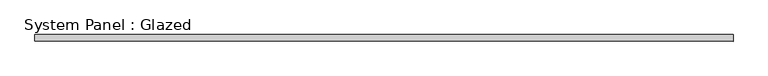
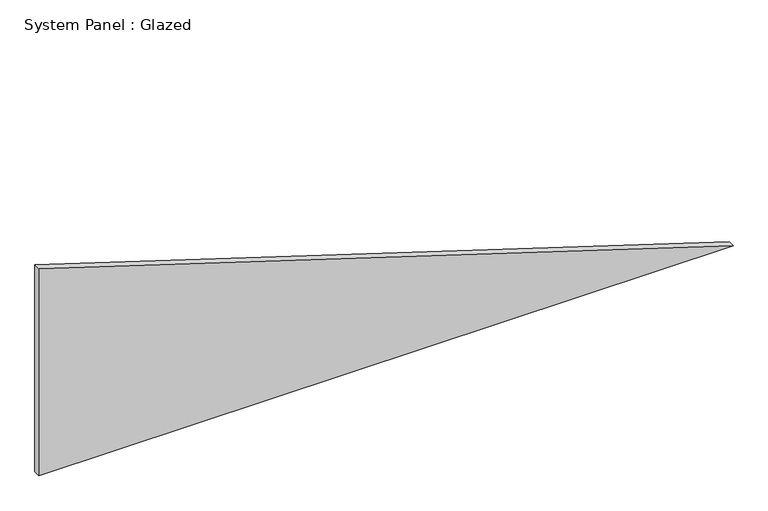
"""IFC4 building model written with IfcOpenShell, lengths in millimetres: plate geometry, System Panel : Glazed."""

import ifcopenshell
import ifcopenshell.guid

model = None  # the IFC model being written
_history = None  # IfcOwnerHistory: only IFC2X3 demands one
_inside = {}  # id of a spatial element -> (the spatial element, [elements in it])
_under = {}  # id of a project, library or spatial element -> (it, [spatial elements below it])
_declared = {}  # id of a project -> (the project, [libraries it declares])
_typed = {}  # id of a type object -> (the type object, [elements of that type])
_made_of = {}  # id of a material, layer set ... -> (it, [elements and type objects made of it])


def new_model(schema):
    """Start an empty IFC model of exactly this schema.

    Asked for "IFC4X3", IfcOpenShell would pick the latest addendum, in which some entities
    have other attributes; the version numbers below select the first issue.
    IFC2X3 requires an IfcOwnerHistory on every rooted entity: one is made here for all.
    """
    global model, _history
    if schema == "IFC4X3":
        model = ifcopenshell.file(schema_version=(4, 3, 0, 0))
    else:
        model = ifcopenshell.file(schema=schema)
    _inside.clear()
    _under.clear()
    _declared.clear()
    _typed.clear()
    _made_of.clear()
    _history = None
    if model.schema == "IFC2X3":
        org = make("IfcOrganization", Name="unknown")
        user = make(
            "IfcPersonAndOrganization",
            ThePerson=make("IfcPerson", FamilyName="unknown"),
            TheOrganization=org,
        )
        app = make(
            "IfcApplication",
            ApplicationDeveloper=org,
            Version="unknown",
            ApplicationFullName="unknown",
            ApplicationIdentifier="unknown",
        )
        _history = make(
            "IfcOwnerHistory",
            OwningUser=user,
            OwningApplication=app,
            ChangeAction="ADDED",
            CreationDate=0,
        )
    return model


def make(cls, **values):
    """One entity of the class cls with the attributes given. An attribute that is None is left unset."""
    return model.create_entity(
        cls, **{name: value for name, value in values.items() if value is not None}
    )


def rooted(cls, **values):
    """An entity with a GlobalId (a new one), such as an element, a storey or a relation."""
    return make(cls, GlobalId=ifcopenshell.guid.new(), OwnerHistory=_history, **values)


def si_unit(unit_type, name, prefix=None):
    """IfcSIUnit, for example si_unit("LENGTHUNIT", "METRE", prefix="MILLI")."""
    return make("IfcSIUnit", UnitType=unit_type, Prefix=prefix, Name=name)


def assignment(units):
    """IfcUnitAssignment: the units of a project."""
    return None if units is None else make("IfcUnitAssignment", Units=units)


def point(xyz):
    """IfcCartesianPoint."""
    return None if xyz is None else make("IfcCartesianPoint", Coordinates=xyz)


def direction(xyz):
    """IfcDirection."""
    return None if xyz is None else make("IfcDirection", DirectionRatios=xyz)


def frame(location, z_axis=None, x_axis=None):
    """IfcAxis2Placement3D, a coordinate frame: its origin and axes. An axis left out is left unset."""
    return make(
        "IfcAxis2Placement3D",
        Location=point(location),
        Axis=direction(z_axis),
        RefDirection=direction(x_axis),
    )


def origin():
    """The frame at (0, 0, 0) with its axes left unset."""
    return frame((0.0, 0.0, 0.0))


def place(relative_to, where):
    """IfcLocalPlacement: puts the frame where relative to a parent placement (None: the world)."""
    return make(
        "IfcLocalPlacement", PlacementRelTo=relative_to, RelativePlacement=where
    )


def context(
    kind, dimensions, precision=None, world=None, true_north=None, identifier=None
):
    """IfcGeometricRepresentationContext, for example the 3D "Model" context."""
    return make(
        "IfcGeometricRepresentationContext",
        ContextIdentifier=identifier,
        ContextType=kind,
        CoordinateSpaceDimension=dimensions,
        Precision=precision,
        WorldCoordinateSystem=world,
        TrueNorth=true_north,
    )


def project(units=None, contexts=None):
    """IfcProject with its units and contexts."""
    return rooted(
        "IfcProject",
        Name="project",
        RepresentationContexts=contexts,
        UnitsInContext=assignment(units),
    )


def spatial(cls, under=None, at=None, **own):
    """A site, building, storey or space (cls), placed at a placement, below another one or the project."""
    s = rooted(cls, ObjectPlacement=at, **own)
    if under is not None:
        _under.setdefault(under.id(), (under, []))[1].append(s)
    return s


def polyline(points):
    """IfcPolyline through the points."""
    return make("IfcPolyline", Points=[point(p) for p in points])


def outline(outer, holes=None, kind="AREA"):
    """IfcArbitraryClosedProfileDef: a profile drawn as a closed curve; with holes, ...WithVoids."""
    if holes is None:
        return make("IfcArbitraryClosedProfileDef", ProfileType=kind, OuterCurve=outer)
    return make(
        "IfcArbitraryProfileDefWithVoids",
        ProfileType=kind,
        OuterCurve=outer,
        InnerCurves=holes,
    )


def extrude(swept, where, along, depth):
    """IfcExtrudedAreaSolid: the profile swept, set in the frame where, extruded along a direction by depth."""
    return make(
        "IfcExtrudedAreaSolid",
        SweptArea=swept,
        Position=where,
        ExtrudedDirection=direction(along),
        Depth=depth,
    )


def shape(context_of_items, identifier, shape_type, items):
    """IfcShapeRepresentation: the items that make up one representation, for example the "Body"."""
    return make(
        "IfcShapeRepresentation",
        ContextOfItems=context_of_items,
        RepresentationIdentifier=identifier,
        RepresentationType=shape_type,
        Items=items,
    )


def source(mapping_origin, context_of_items, identifier, shape_type, items):
    """IfcRepresentationMap: a shape defined once, which mapped items show again and again."""
    return make(
        "IfcRepresentationMap",
        MappingOrigin=mapping_origin,
        MappedRepresentation=shape(context_of_items, identifier, shape_type, items),
    )


def transform(
    local_origin,
    x_axis=None,
    y_axis=None,
    z_axis=None,
    scale=None,
    scale2=None,
    scale3=None,
    uniform=True,
):
    """IfcCartesianTransformationOperator3D, or its non-uniform kind. x_axis, y_axis, z_axis: its Axis1, 2, 3."""
    if uniform:
        return make(
            "IfcCartesianTransformationOperator3D",
            Axis1=direction(x_axis),
            Axis2=direction(y_axis),
            LocalOrigin=point(local_origin),
            Scale=scale,
            Axis3=direction(z_axis),
        )
    return make(
        "IfcCartesianTransformationOperator3DnonUniform",
        Axis1=direction(x_axis),
        Axis2=direction(y_axis),
        LocalOrigin=point(local_origin),
        Scale=scale,
        Axis3=direction(z_axis),
        Scale2=scale2,
        Scale3=scale3,
    )


def mapped(mapping_source, mapping_target):
    """IfcMappedItem: shows the shape of a source again, moved by a transform."""
    return make(
        "IfcMappedItem", MappingSource=mapping_source, MappingTarget=mapping_target
    )


def made_of(thing, what):
    """Note that an element or type object is made of a material, layer set ...; save() writes the relation."""
    if what is not None:
        _made_of.setdefault(what.id(), (what, []))[1].append(thing)
    return thing


def element(
    cls,
    number,
    at=None,
    inside=None,
    cuts=None,
    type_object=None,
    material=None,
    context=None,
    identifier="Body",
    shape_type=None,
    held_by="IfcProductDefinitionShape",
    body=None,
    shapes=None,
    **own,
):
    """One element of the class cls, such as IfcWall. Its Tag is "e" and its number.

    at: its placement. inside: the storey or other place that contains it. cuts: it is an
    opening in that element (IfcRelVoidsElement). A single representation is given by context,
    identifier, shape_type and body (its items); several are given by shapes. held_by: the class
    of the entity that holds the representations. save() writes the other relations.
    """
    e = rooted(cls, Tag="e%d" % number, ObjectPlacement=at, **own)
    if body is not None:
        shapes = [shape(context, identifier, shape_type, body)]
    if shapes is not None:
        e.Representation = make(held_by, Representations=shapes)
    if inside is not None:
        _inside.setdefault(inside.id(), (inside, []))[1].append(e)
    if cuts is not None:
        rooted(
            "IfcRelVoidsElement", RelatingBuildingElement=cuts, RelatedOpeningElement=e
        )
    if type_object is not None:
        _typed.setdefault(type_object.id(), (type_object, []))[1].append(e)
    return made_of(e, material)


def aggregate(whole, parts):
    """IfcRelAggregates: a whole, such as a stair, and the parts it consists of."""
    return rooted("IfcRelAggregates", RelatingObject=whole, RelatedObjects=parts)


def save(model, path):
    """Write the relations noted so far, then the file.

    IfcRelAggregates (storeys below a building ...), IfcRelContainedInSpatialStructure (elements
    in a storey), IfcRelDefinesByType, IfcRelAssociatesMaterial and IfcRelDeclares: one each for
    every whole, place, type object, material and project.
    """
    for whole, parts in _under.values():
        aggregate(whole, parts)
    for where, things in _inside.values():
        rooted(
            "IfcRelContainedInSpatialStructure",
            RelatedElements=things,
            RelatingStructure=where,
        )
    for kind, things in _typed.values():
        rooted("IfcRelDefinesByType", RelatedObjects=things, RelatingType=kind)
    for what, things in _made_of.values():
        rooted("IfcRelAssociatesMaterial", RelatedObjects=things, RelatingMaterial=what)
    for by, libraries in _declared.values():
        rooted("IfcRelDeclares", RelatingContext=by, RelatedDefinitions=libraries)
    model.write(path)


def system_panel_glazed_1aefa611(model_context):
    return source(origin(), model_context, "Body", "SweptSolid", [
        extrude(outline(polyline([(0.0, -1353.1630013), (0.0, 1353.1630013), (852.9483726, -1353.1630013), (0.0, -1353.1630013)])), frame((0.0, 19.05, 0.0), z_axis=(0.0, 1.0, 0.0), x_axis=(0.0, 0.0, 1.0)), (0.0, 0.0, 1.0), 25.4),
    ])


if __name__ == "__main__":
    model = new_model("IFC4")
    model_context = context("Model", 3, world=origin())
    ifc_project = project(units=[si_unit("LENGTHUNIT", "METRE", prefix="MILLI")], contexts=[model_context])
    site = spatial("IfcSite", under=ifc_project)
    building = spatial("IfcBuilding", under=site)
    placement = place(None, origin())
    system_panel_glazed_shape = system_panel_glazed_1aefa611(model_context)
    element("IfcPlate", 1, ObjectType="System Panel : Glazed", at=placement, inside=building, context=model_context, shape_type="MappedRepresentation", body=[
        mapped(system_panel_glazed_shape, transform((0.0, 0.0, 0.0), x_axis=(1.0, 0.0, 0.0), y_axis=(0.0, 1.0, 0.0), z_axis=(0.0, 0.0, 1.0))),
    ])
    save(model, "model.ifc")
